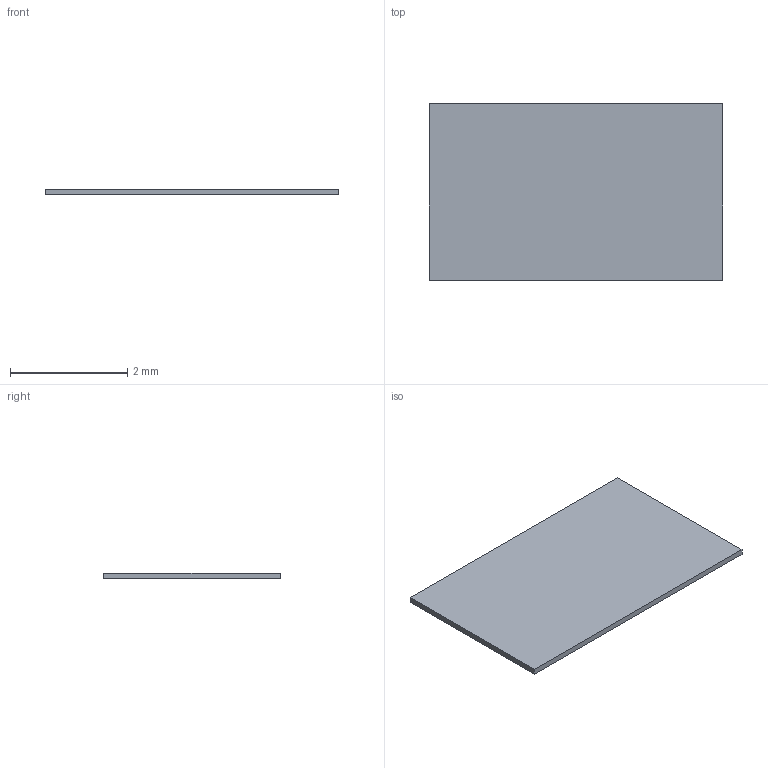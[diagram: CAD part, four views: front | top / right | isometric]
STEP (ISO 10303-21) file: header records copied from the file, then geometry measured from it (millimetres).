
FILE_DESCRIPTION(('Open CASCADE Model'),'2;1');
FILE_NAME('Open CASCADE Shape Model','2026-09-15T14:16:07',('Author'),( 'Open CASCADE'),'Open CASCADE STEP processor 7.7','Open CASCADE 7.7' ,'Unknown');
FILE_SCHEMA(('AUTOMOTIVE_DESIGN { 1 0 10303 214 1 1 1 1 }'));
Length unit declared in the file: millimetre
Products named in the file (1): J9_STOCK_PTT_RETURN_RETAINING_TAPE_0p10
Bounding box: 5 x 3 x 0.1 mm (x, y, z)
Volume: 1.5 mm3; surface area: 31.6 mm2
Topology: 1 solids, 1 shells, 6 faces, 12 edges, 8 vertices
Faces by surface type: plane 6
Entity records: 322 total; most frequent: CARTESIAN_POINT 51, DIRECTION 50, LINE 36, VECTOR 36, ORIENTED_EDGE 24, PCURVE 24, DEFINITIONAL_REPRESENTATION 24, EDGE_CURVE 12
